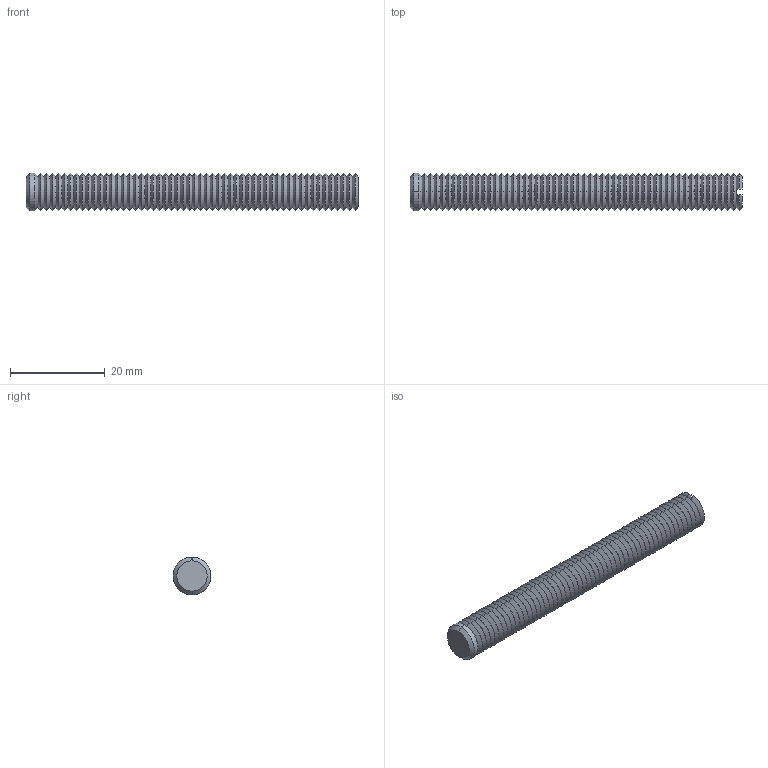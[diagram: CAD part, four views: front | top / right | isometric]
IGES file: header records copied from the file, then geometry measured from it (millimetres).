
Start section: SolidWorks IGES file using analytic representation for surfaces
Global section: file name: C:\Documents and Settings\IANO\Desktop\Temp File\Process pending\EXISTING\34300_v2\34300_v2_20170622_IGES\34300.W0088.igs; native system: SolidWorks 2009; preprocessor: SolidWorks 2009; author: IANO; date: 170622.093907; units: millimetre
Bounding box: 70 x 8 x 8 mm (x, y, z)
Surface area: 2602.2 mm2 (no closed solid volume)
Topology: 0 solids, 0 shells, 228 faces, 976 edges, 976 vertices
Faces by surface type: revolution 222, bspline 6
